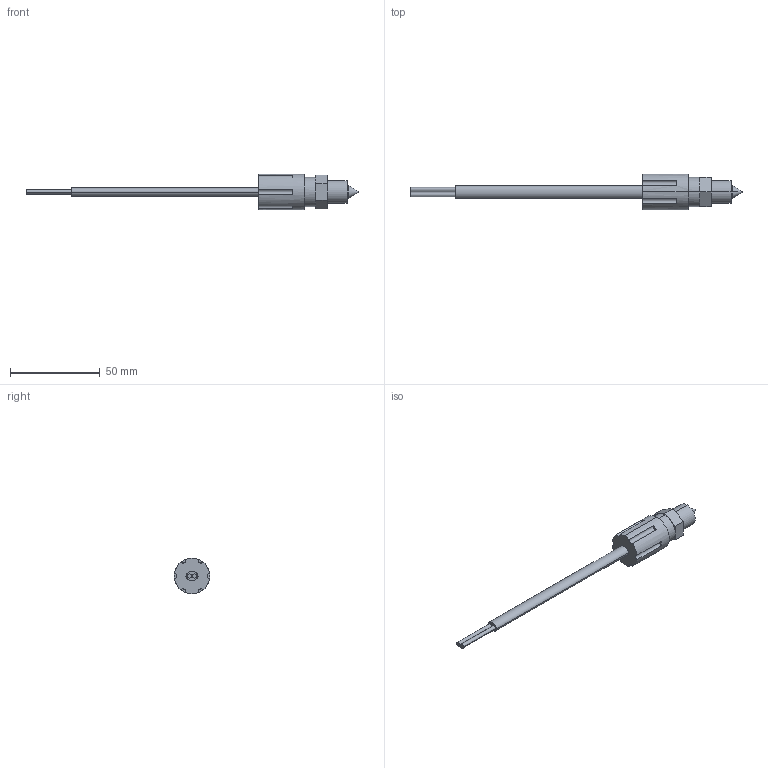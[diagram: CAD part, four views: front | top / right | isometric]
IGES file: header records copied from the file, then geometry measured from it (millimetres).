
Start section: SolidWorks IGES file using analytic representation for surfaces
Global section: file name: S:\Product Visuals\Defeatured Models\Parts Library\Control and Monitoring\Leak Detection\Fiber Optic\Fitting Leak Detect.IGS; native system: SolidWorks 2012; preprocessor: SolidWorks 2012; author: rachel.dressel; date: 120921.111659; units: inch
Bounding box: 185.08 x 19.81 x 19.81 mm (x, y, z)
Volume: 14769.7 mm3; surface area: 5860.8 mm2
Topology: 1 solids, 1 shells, 54 faces, 126 edges, 80 vertices
Faces by surface type: plane 30, revolution 22, bspline 2
